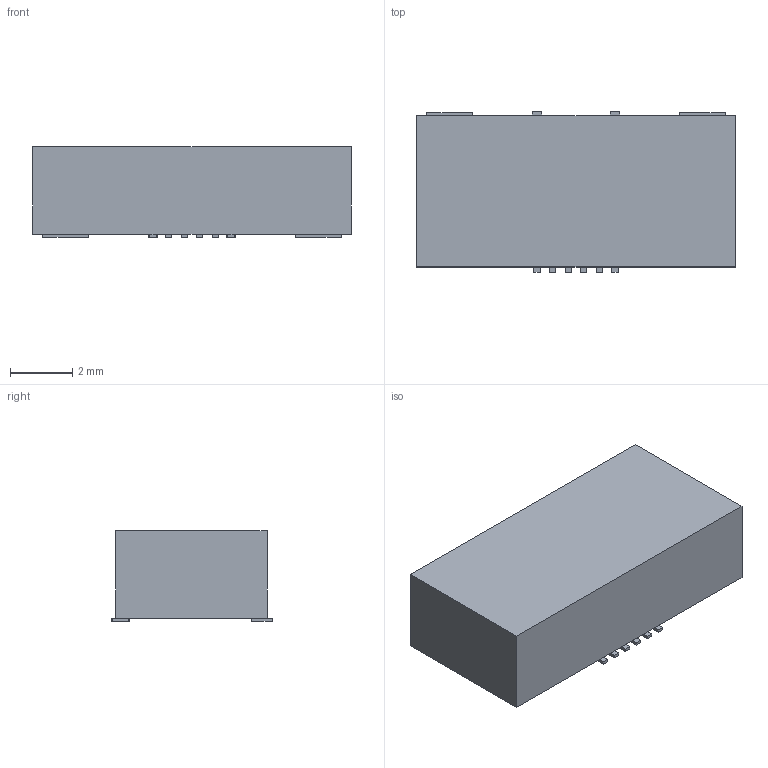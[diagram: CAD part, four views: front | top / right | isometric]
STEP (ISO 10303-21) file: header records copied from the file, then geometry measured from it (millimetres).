
FILE_DESCRIPTION(('FreeCAD Model'),'2;1');
FILE_NAME('/var/www/3D/0T/15765695.1.2.stp','2022-03-01T16:51:50',( 'Author'),(''),'Open CASCADE STEP processor 6.9','FreeCAD','Unknown' );
FILE_SCHEMA(('AUTOMOTIVE_DESIGN { 1 0 10303 214 1 1 1 1 }'));
Length unit declared in the file: millimetre
Products named in the file (3): ASSEMBLY; Body; Pins
Assembly tree (2 placements, depth 2):
  ASSEMBLY
    Body
    Pins
Bounding box: 10.2 x 5.13 x 2.9 mm (x, y, z)
Volume: 138.8 mm3; surface area: 190.7 mm2
Topology: 11 solids, 11 shells, 66 faces, 132 edges, 88 vertices
Faces by surface type: plane 66
Entity records: 3521 total; most frequent: CARTESIAN_POINT 553, DIRECTION 534, LINE 396, VECTOR 396, ORIENTED_EDGE 264, PCURVE 264, DEFINITIONAL_REPRESENTATION 264, EDGE_CURVE 132
